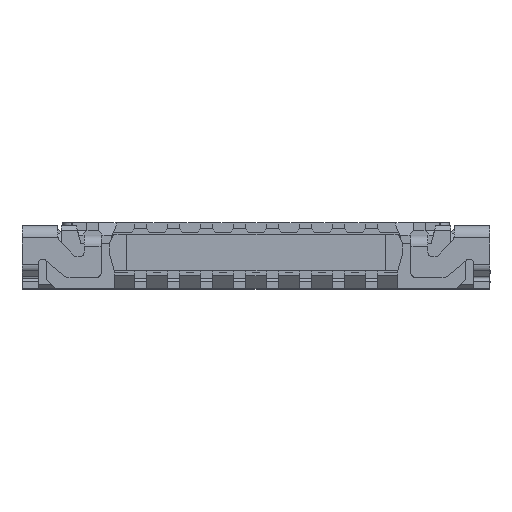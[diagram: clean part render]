
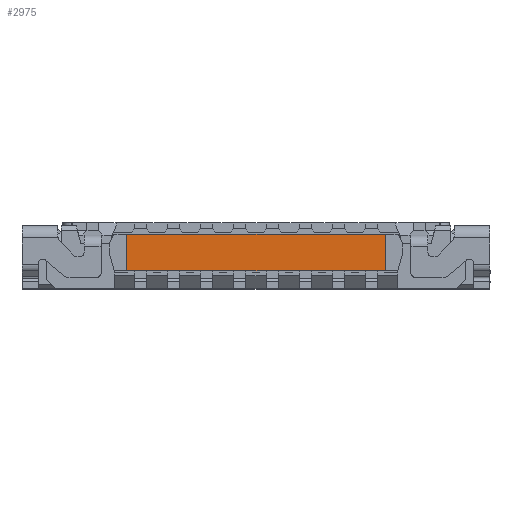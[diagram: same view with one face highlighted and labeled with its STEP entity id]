
A CAD part, top view. The second image highlights one B-rep face of the part: STEP entity #2975.
In plain terms, the highlighted planar face has unit normal (0, 0, 1).
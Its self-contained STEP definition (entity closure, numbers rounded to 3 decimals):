
#37 = CARTESIAN_POINT ( 'NONE',  ( 0.15, 0.58, 0.99 ) ) ;
#735 = CARTESIAN_POINT ( 'NONE',  ( -7.525, 0.17, 0.99 ) ) ;
#1607 = VERTEX_POINT ( 'NONE', #6367 ) ;
#2716 = CARTESIAN_POINT ( 'NONE',  ( -7.875, 0.19, 0.99 ) ) ;
#2975 = ADVANCED_FACE ( 'NONE', ( #24918 ), #12247, .F. ) ;
#3510 = EDGE_CURVE ( 'NONE', #24439, #22857, #10640, .T. ) ;
#6367 = CARTESIAN_POINT ( 'NONE',  ( -2.6, 0.19, 0.99 ) ) ;
#6465 = EDGE_LOOP ( 'NONE', ( #16968, #10482, #20788, #14227 ) ) ;
#6916 = EDGE_CURVE ( 'NONE', #22857, #1607, #22417, .T. ) ;
#7052 = LINE ( 'NONE', #24902, #26538 ) ;
#9221 = DIRECTION ( 'NONE',  ( 0., -1., 0. ) ) ;
#10482 = ORIENTED_EDGE ( 'NONE', *, *, #3510, .F. ) ;
#10640 = LINE ( 'NONE', #17239, #23982 ) ;
#11032 = VECTOR ( 'NONE', #13388, 1000. ) ;
#12247 = PLANE ( 'NONE',  #28114 ) ;
#13388 = DIRECTION ( 'NONE',  ( -1., 0., 0. ) ) ;
#13689 = CARTESIAN_POINT ( 'NONE',  ( 0.15, 0.19, 0.99 ) ) ;
#14227 = ORIENTED_EDGE ( 'NONE', *, *, #24542, .T. ) ;
#14756 = VECTOR ( 'NONE', #24880, 1000. ) ;
#16519 = CARTESIAN_POINT ( 'NONE',  ( -7.525, 0.58, 0.99 ) ) ;
#16567 = DIRECTION ( 'NONE',  ( -1., 0., 0. ) ) ;
#16968 = ORIENTED_EDGE ( 'NONE', *, *, #6916, .F. ) ;
#17239 = CARTESIAN_POINT ( 'NONE',  ( 0.15, 0.19, 0.99 ) ) ;
#17590 = VERTEX_POINT ( 'NONE', #24441 ) ;
#20788 = ORIENTED_EDGE ( 'NONE', *, *, #22185, .T. ) ;
#22185 = EDGE_CURVE ( 'NONE', #24439, #17590, #24454, .T. ) ;
#22417 = LINE ( 'NONE', #2716, #11032 ) ;
#22857 = VERTEX_POINT ( 'NONE', #13689 ) ;
#23143 = DIRECTION ( 'NONE',  ( 0., -1., 0. ) ) ;
#23982 = VECTOR ( 'NONE', #23143, 1000. ) ;
#24439 = VERTEX_POINT ( 'NONE', #37 ) ;
#24441 = CARTESIAN_POINT ( 'NONE',  ( -2.6, 0.58, 0.99 ) ) ;
#24454 = LINE ( 'NONE', #16519, #14756 ) ;
#24542 = EDGE_CURVE ( 'NONE', #17590, #1607, #7052, .T. ) ;
#24880 = DIRECTION ( 'NONE',  ( -1., 0., 0. ) ) ;
#24902 = CARTESIAN_POINT ( 'NONE',  ( -2.6, 0.19, 0.99 ) ) ;
#24918 = FACE_OUTER_BOUND ( 'NONE', #6465, .T. ) ;
#26538 = VECTOR ( 'NONE', #9221, 1000. ) ;
#26914 = DIRECTION ( 'NONE',  ( 0., 0., -1. ) ) ;
#28114 = AXIS2_PLACEMENT_3D ( 'NONE', #735, #26914, #16567 ) ;
